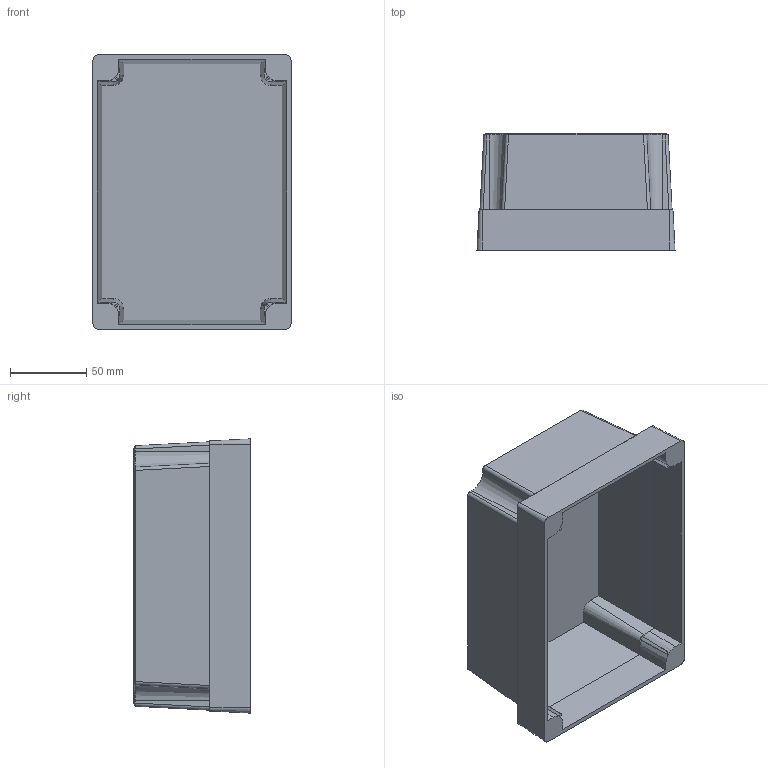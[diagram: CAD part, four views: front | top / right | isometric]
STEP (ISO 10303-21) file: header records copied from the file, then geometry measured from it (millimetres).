
FILE_DESCRIPTION (( 'STEP AP203' ), '1' );
FILE_NAME ('FIBOX_MNX15075C.STEP', '2005-06-30T06:48:01', ( ' ' ), ( ' ' ), 'SwSTEP 2.0', 'SolidWorks 2005143', '' );
FILE_SCHEMA (( 'CONFIG_CONTROL_DESIGN' ));
Length unit declared in the file: millimetre
Products named in the file (1): FIBOX_MNX15075C
Bounding box: 130 x 76.6 x 180 mm (x, y, z)
Volume: 146395.6 mm3; surface area: 131707 mm2
Topology: 1 solids, 1 shells, 119 faces, 321 edges, 211 vertices
Faces by surface type: plane 73, cone 24, cylinder 20, bspline 2
Entity records: 6592 total; most frequent: CARTESIAN_POINT 3596, ORIENTED_EDGE 642, DIRECTION 566, EDGE_CURVE 321, VERTEX_POINT 211, AXIS2_PLACEMENT_3D 194, VECTOR 178, LINE 178
